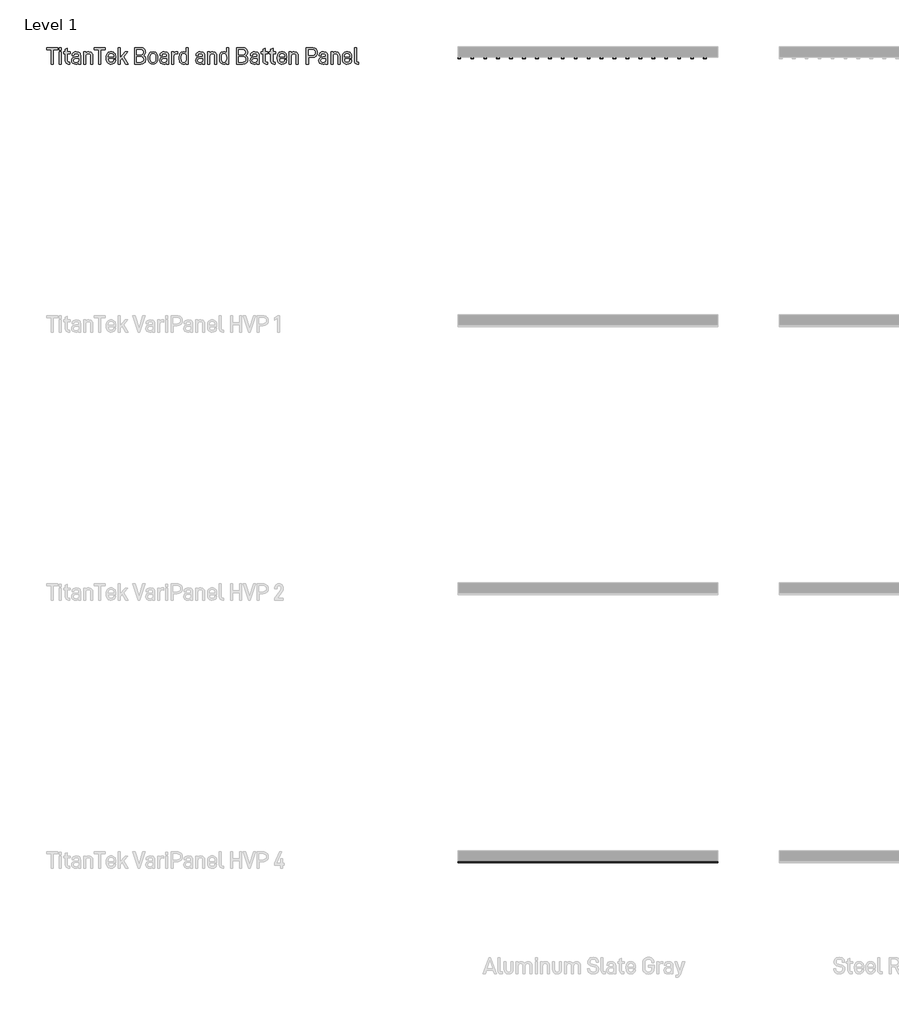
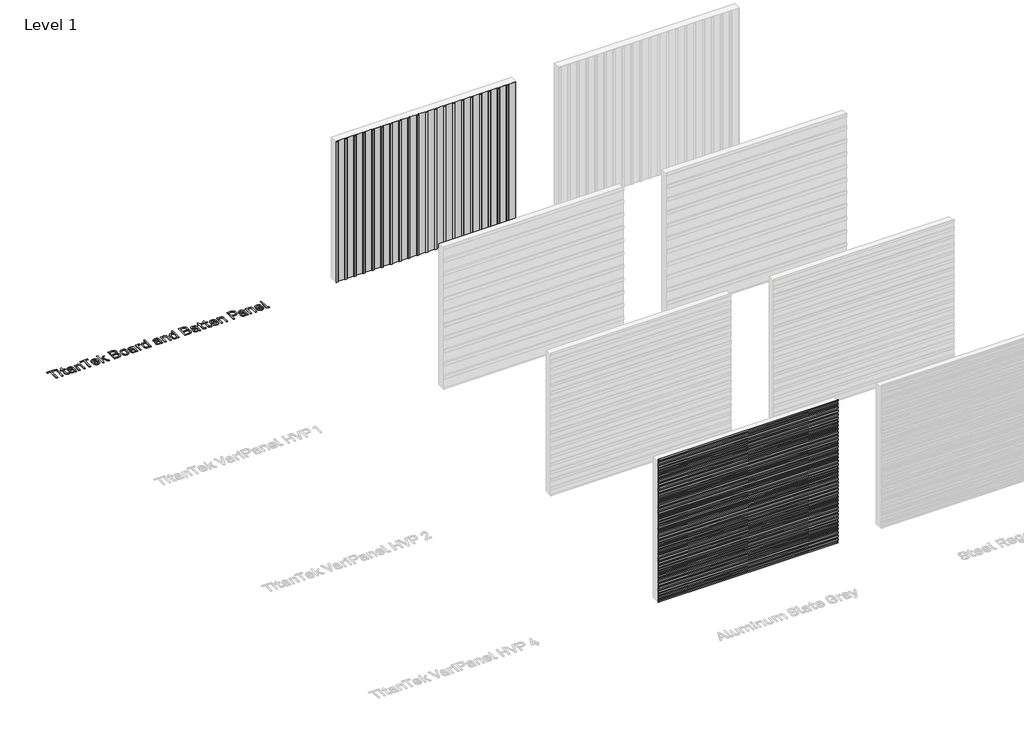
# One storey, part 5 of 33: 3 proxies.
"""IFC4 building model written with IfcOpenShell, lengths in millimetres."""

from ifc_helpers import new_model, si_unit, frame, origin, origin_with_axes, place, context, project, spatial, polyline, outline, extrude, transform, mapped, element, save
from components import titantek_board_and_batten_panel_aluminum_slate_gray_d83a0c41

model = new_model("IFC4")

# Units and contexts
model_context = context("Model", 3, world=origin())
ifc_project = project(units=[si_unit("LENGTHUNIT", "METRE", prefix="MILLI")], contexts=[model_context])

# Site, building, storey
site = spatial("IfcSite", under=ifc_project)
building = spatial("IfcBuilding", under=site)
storey = spatial("IfcBuildingStorey", under=building, Name="Level 1", Elevation=0.0)

# Proxies
placement = place(None, origin())
element("IfcBuildingElementProxy", 1, Name="600mm Arial 2", ObjectType="600mm Arial 2", at=placement, inside=storey, context=model_context, shape_type="SweptSolid", body=[
    extrude(outline(polyline([(-9914.9924556, -2779.5871657), (-9914.9924556, -3047.0126498), (-9954.4439015, -3047.0126498), (-9954.4439015, -2779.5871657), (-10038.8787304, -2779.5871657), (-10038.8787304, -2742.6833224), (-9830.5576267, -2742.6833224), (-9830.5576267, -2779.5871657), (-9914.9924556, -2779.5871657)])), origin_with_axes(), (0.0, 0.0, 1.0), 5.0),
    extrude(outline(polyline([(-9763.1553408, -2746.9778525), (-9763.1553408, -2794.1448949), (-9802.6067867, -2794.1448949), (-9802.6067867, -2746.9778525), (-9763.1553408, -2746.9778525)])), origin_with_axes(), (0.0, 0.0, 1.0), 5.0),
    extrude(outline(polyline([(-9764.0288046, -2821.1494824), (-9764.0288046, -3047.0126498), (-9801.733323, -3047.0126498), (-9801.733323, -2821.1494824), (-9764.0288046, -2821.1494824)])), origin_with_axes(), (0.0, 0.0, 1.0), 5.0),
    extrude(outline(polyline([(-9648.294858, -2987.398749), (-9646.8208879, -2998.4808203), (-9642.3989777, -3006.3965855), (-9635.0291273, -3011.1460446), (-9624.7113368, -3012.7291977), (-9603.2386864, -3012.7291977), (-9603.2386864, -3047.0126498), (-9629.3698101, -3047.0126498), (-9653.1535001, -3043.0456686), (-9671.3688587, -3031.144725), (-9682.6692959, -3012.6018175), (-9686.4361083, -2988.7089446), (-9686.4361083, -2852.8853319), (-9720.2828285, -2852.8853319), (-9720.2828285, -2821.1494824), (-9686.4361083, -2821.1494824), (-9686.4361083, -2773.1089763), (-9648.294858, -2755.1301808), (-9648.294858, -2821.1494824), (-9599.3808881, -2821.1494824), (-9599.3808881, -2852.8853319), (-9648.294858, -2852.8853319), (-9648.294858, -2987.398749)])), origin_with_axes(), (0.0, 0.0, 1.0), 5.0),
    extrude(outline(polyline([(-9422.8684225, -2837.8908709), (-9413.2830677, -2848.6590411), (-9406.4363858, -2861.7473495), (-9400.9590402, -2894.8843804), (-9400.9590402, -3047.0126498), (-9438.2996154, -3047.0126498), (-9438.2996154, -3030.7079931), (-9456.7151427, -3043.1548515), (-9473.7476858, -3047.9589022), (-9493.9829293, -3049.5602524), (-9526.0281305, -3045.2839194), (-9550.1029751, -3032.4549206), (-9565.2248162, -3010.6729184), (-9570.2654299, -2981.4300801), (-9565.1338304, -2953.7885919), (-9549.7390318, -2932.5888988), (-9525.063681, -2919.3777597), (-9493.1094655, -2914.9740466), (-9438.7363472, -2914.9740466), (-9438.7363472, -2894.4476485), (-9441.6296959, -2875.558995), (-9450.3097419, -2861.8383353), (-9464.2305704, -2853.8133871), (-9483.7197302, -2851.1384044), (-9502.2262434, -2853.3948524), (-9515.819523, -2860.1641964), (-9524.1720201, -2870.5183813), (-9526.9561857, -2884.5483927), (-9526.9561857, -2890.1531184), (-9563.8600291, -2890.1531184), (-9563.8600291, -2883.7477176), (-9558.4008807, -2856.7067358), (-9542.0234354, -2835.7072115), (-9516.8203668, -2822.5506638), (-9484.1564621, -2818.1651479), (-9448.6719974, -2823.0965787), (-9434.5600987, -2829.2608671), (-9422.8684225, -2837.8908709)]), holes=[polyline([(-9450.6736851, -3005.4503331), (-9441.7206817, -2990.5468579), (-9438.7363472, -2968.9832216), (-9438.7363472, -2945.0357572), (-9488.8149354, -2945.0357572), (-9507.9538, -2947.2831067), (-9521.6244175, -2954.025155), (-9529.826788, -2965.2619021), (-9532.5609115, -2980.9933482), (-9529.8540837, -2996.9477094), (-9521.7336004, -3008.3436818), (-9508.1994616, -3015.1812652), (-9489.2516673, -3017.4604596), (-9466.104878, -3014.457928), (-9450.6736851, -3005.4503331)])]), origin_with_axes(), (0.0, 0.0, 1.0), 5.0),
    extrude(outline(polyline([(-9306.6977441, -2821.1494824), (-9306.6977441, -2839.5650097), (-9288.2822167, -2826.3174762), (-9271.1222935, -2820.5307789), (-9252.2518372, -2818.6018798), (-9219.9154813, -2824.0610282), (-9206.7907787, -2830.8849637), (-9195.6950595, -2840.4384735), (-9187.0650557, -2852.0209667), (-9180.9007673, -2865.8053165), (-9175.9693365, -2899.9795856), (-9175.9693365, -3047.0126498), (-9213.673855, -3047.0126498), (-9213.673855, -2904.2741157), (-9216.6763866, -2881.8916072), (-9225.6839815, -2866.1328654), (-9240.3781893, -2856.5247642), (-9259.567096, -2853.3220637), (-9278.7378056, -2856.5247642), (-9293.3774219, -2866.1328654), (-9303.0401146, -2882.546705), (-9306.2610122, -2904.2741157), (-9306.2610122, -3047.0126498), (-9343.9655306, -3047.0126498), (-9343.9655306, -2821.1494824), (-9306.6977441, -2821.1494824)])), origin_with_axes(), (0.0, 0.0, 1.0), 5.0),
    extrude(outline(polyline([(-9025.2240514, -2779.5871657), (-9025.2240514, -3047.0126498), (-9064.6754974, -3047.0126498), (-9064.6754974, -2779.5871657), (-9149.1103263, -2779.5871657), (-9149.1103263, -2742.6833224), (-8940.7892225, -2742.6833224), (-8940.7892225, -2779.5871657), (-9025.2240514, -2779.5871657)])), origin_with_axes(), (0.0, 0.0, 1.0), 5.0),
    extrude(outline(polyline([(-8884.5235994, -2952.7513537), (-8881.1025331, -2982.1670651), (-8870.8393341, -3001.1194087), (-8854.3527058, -3011.4099035), (-8832.2613519, -3014.8400684), (-8812.990558, -3012.2742686), (-8798.8513635, -3004.5768694), (-8790.1713175, -2992.8033059), (-8787.2779689, -2977.13555), (-8787.2779689, -2971.6036129), (-8750.3741256, -2971.6036129), (-8750.3741256, -2978.0090137), (-8756.0516399, -3007.1608663), (-8763.1485329, -3019.471246), (-8773.084183, -3030.2712613), (-8799.7976159, -3044.7380046), (-8834.3722226, -3049.5602524), (-8853.3222916, -3048.0612612), (-8870.2843206, -3043.5642877), (-8885.2583098, -3036.0693318), (-8898.2442591, -3025.5763936), (-8908.7371973, -3011.9762901), (-8916.2321532, -2995.1598383), (-8920.7291267, -2975.1270383), (-8922.2281179, -2951.8778899), (-8922.2281179, -2914.1733715), (-8920.7314014, -2891.4678633), (-8916.2412518, -2871.8285769), (-8908.7576691, -2855.2555121), (-8898.2806535, -2841.7486691), (-8885.4971476, -2831.4308786), (-8870.7301511, -2824.0610282), (-8853.979664, -2819.639118), (-8835.2456864, -2818.1651479), (-8816.8438069, -2819.639118), (-8800.2161506, -2824.0610282), (-8785.3627176, -2831.4308786), (-8772.2835079, -2841.7486691), (-8761.9657174, -2855.0917377), (-8754.595867, -2871.610211), (-8750.1739568, -2891.3040889), (-8748.6999867, -2914.1733715), (-8748.6999867, -2944.1622935), (-8884.5235994, -2944.1622935), (-8884.5235994, -2952.7513537)]), holes=[polyline([(-8871.2760659, -2866.5695973), (-8881.2117161, -2884.69397), (-8884.5235994, -2913.2999077), (-8786.4045051, -2913.7366396), (-8786.4045051, -2910.3155733), (-8789.6254027, -2883.0744226), (-8799.2880954, -2865.6961335), (-8814.9012599, -2856.4155812), (-8835.2456864, -2853.3220637), (-8855.60831, -2856.6339471), (-8871.2760659, -2866.5695973)])]), origin_with_axes(), (0.0, 0.0, 1.0), 5.0),
    extrude(outline(polyline([(-8663.391694, -2979.6831526), (-8663.391694, -3047.0126498), (-8701.0962125, -3047.0126498), (-8701.0962125, -2742.6833224), (-8663.391694, -2742.6833224), (-8663.391694, -2929.1678325), (-8575.0990669, -2821.1494824), (-8528.3687564, -2821.1494824), (-8602.5403863, -2908.1319139), (-8517.6688255, -3047.0126498), (-8563.5256722, -3047.0126498), (-8627.7980463, -2937.3201608), (-8663.391694, -2979.6831526)])), origin_with_axes(), (0.0, 0.0, 1.0), 5.0),
    extrude(outline(polyline([(-8200.3103305, -2914.1733715), (-8190.3200889, -2935.882585), (-8186.9900084, -2961.7043571), (-8188.5708868, -2980.5748135), (-8193.313522, -2997.2980048), (-8201.217914, -3011.8739311), (-8212.2840627, -3024.3025923), (-8226.0570393, -3034.2382425), (-8242.0819146, -3041.3351354), (-8280.8873613, -3047.0126498), (-8396.1845759, -3047.0126498), (-8396.1845759, -2742.6833224), (-8283.4349639, -2742.6833224), (-8245.002559, -2748.051485), (-8229.3893945, -2754.7616883), (-8216.1782553, -2764.1559729), (-8205.4783244, -2776.1479022), (-8197.8355166, -2790.2870966), (-8193.2498319, -2806.5735561), (-8191.7212704, -2825.0072806), (-8194.9421679, -2847.8447182), (-8204.6048606, -2868.3165247), (-8216.0508752, -2881.3820866), (-8229.8625207, -2890.5898503), (-8213.0483435, -2900.7802607), (-8200.3103305, -2914.1733715)]), holes=[polyline([(-8356.2963981, -2873.4117299), (-8286.8560302, -2873.4117299), (-8263.5090721, -2870.5183813), (-8245.7304454, -2861.8383353), (-8235.1396975, -2847.262409), (-8231.6094482, -2826.6814194), (-8235.0305145, -2806.22781), (-8245.2937135, -2791.1605604), (-8262.4718339, -2782.1529655), (-8286.492087, -2779.1504339), (-8356.2963981, -2779.1504339), (-8356.2963981, -2873.4117299)]), polyline([(-8241.8726472, -2997.2980048), (-8230.6268014, -2981.648446), (-8226.8781862, -2959.5934864), (-8230.5176185, -2937.9206671), (-8241.4359153, -2922.689643), (-8259.432908, -2913.0815418), (-8284.3084276, -2909.8788414), (-8356.2963981, -2909.8788414), (-8356.2963981, -3010.5455383), (-8284.7451595, -3010.5455383), (-8259.8696398, -3007.2336549), (-8241.8726472, -2997.2980048)])]), origin_with_axes(), (0.0, 0.0, 1.0), 5.0),
    extrude(outline(polyline([(-8115.6571357, -3027.2869268), (-8126.1341514, -3014.3259986), (-8133.617734, -2998.1532714), (-8138.1078836, -2978.7687452), (-8139.6046001, -2956.17242), (-8139.6046001, -2911.5529802), (-8138.1056089, -2889.1477253), (-8133.6086354, -2869.8996778), (-8126.1136796, -2853.8088378), (-8115.6207414, -2840.8752053), (-8102.634792, -2830.9395552), (-8087.6608029, -2823.8426623), (-8051.7487048, -2818.1651479), (-8016.8647464, -2823.8426623), (-8002.1386935, -2830.9395552), (-7989.2232582, -2840.8752053), (-7978.7143975, -2853.6450634), (-7971.2080684, -2869.6813119), (-7966.704271, -2888.9839508), (-7965.2030052, -2911.5529802), (-7965.2030052, -2956.17242), (-7966.704271, -2978.7414495), (-7971.2080684, -2998.0440884), (-7978.7143975, -3014.0803369), (-7989.2232582, -3026.8501949), (-8002.1386935, -3036.7858451), (-8016.8647464, -3043.882738), (-8051.7487048, -3049.5602524), (-8087.8882674, -3043.991921), (-8102.8190383, -3037.0315067), (-8115.6571357, -3027.2869268)]), holes=[polyline([(-8016.2278458, -3001.5925349), (-8006.2376041, -2983.3589792), (-8002.9075236, -2954.4254925), (-8002.9075236, -2913.2999077), (-8006.2376041, -2884.69397), (-8016.2278458, -2866.5695973), (-8031.5134613, -2856.6339471), (-8051.7487048, -2853.3220637), (-8072.7664262, -2856.6339471), (-8088.6525482, -2866.5695973), (-8098.5881983, -2884.69397), (-8101.9000817, -2913.2999077), (-8101.9000817, -2954.4254925), (-8098.5881983, -2983.3589792), (-8088.6525482, -3001.5925349), (-8072.7664262, -3011.528185), (-8051.7487048, -3014.8400684), (-8031.5134613, -3011.528185), (-8016.2278458, -3001.5925349)])]), origin_with_axes(), (0.0, 0.0, 1.0), 5.0),
    extrude(outline(polyline([(-7778.4273405, -2837.8908709), (-7768.8419857, -2848.6590411), (-7761.9953037, -2861.7473495), (-7756.5179582, -2894.8843804), (-7756.5179582, -3047.0126498), (-7793.8585334, -3047.0126498), (-7793.8585334, -3030.7079931), (-7812.2740607, -3043.1548515), (-7829.3066038, -3047.9589022), (-7849.5418473, -3049.5602524), (-7881.5870485, -3045.2839194), (-7905.661893, -3032.4549206), (-7920.7837342, -3010.6729184), (-7925.8243479, -2981.4300801), (-7920.6927484, -2953.7885919), (-7905.2979498, -2932.5888988), (-7880.6225989, -2919.3777597), (-7848.6683835, -2914.9740466), (-7794.2952652, -2914.9740466), (-7794.2952652, -2894.4476485), (-7797.1886139, -2875.558995), (-7805.8686599, -2861.8383353), (-7819.7894884, -2853.8133871), (-7839.2786482, -2851.1384044), (-7857.7851614, -2853.3948524), (-7871.378441, -2860.1641964), (-7879.730938, -2870.5183813), (-7882.5151037, -2884.5483927), (-7882.5151037, -2890.1531184), (-7919.4189471, -2890.1531184), (-7919.4189471, -2883.7477176), (-7913.9597986, -2856.7067358), (-7897.5823534, -2835.7072115), (-7872.3792848, -2822.5506638), (-7839.7153801, -2818.1651479), (-7804.2309154, -2823.0965787), (-7790.1190167, -2829.2608671), (-7778.4273405, -2837.8908709)]), holes=[polyline([(-7806.2326031, -3005.4503331), (-7797.2795997, -2990.5468579), (-7794.2952652, -2968.9832216), (-7794.2952652, -2945.0357572), (-7844.3738534, -2945.0357572), (-7863.5127179, -2947.2831067), (-7877.1833354, -2954.025155), (-7885.3857059, -2965.2619021), (-7888.1198294, -2980.9933482), (-7885.4130017, -2996.9477094), (-7877.2925184, -3008.3436818), (-7863.7583796, -3015.1812652), (-7844.8105853, -3017.4604596), (-7821.663796, -3014.457928), (-7806.2326031, -3005.4503331)])]), origin_with_axes(), (0.0, 0.0, 1.0), 5.0),
    extrude(outline(polyline([(-7609.5576826, -2818.1651479), (-7589.3952278, -2820.2760186), (-7589.3952278, -2859.2907327), (-7615.9630834, -2853.686007), (-7634.2967236, -2857.2253549), (-7648.9727342, -2867.8433985), (-7658.6081312, -2884.2481396), (-7661.8199302, -2905.1475794), (-7661.8199302, -3047.0126498), (-7699.5244486, -3047.0126498), (-7699.5244486, -2821.1494824), (-7662.2566621, -2821.1494824), (-7662.2566621, -2840.8752053), (-7644.7145985, -2826.6814194), (-7628.6101106, -2820.2942158), (-7609.5576826, -2818.1651479)])), origin_with_axes(), (0.0, 0.0, 1.0), 5.0),
    extrude(outline(polyline([(-7429.9880939, -2742.6833224), (-7391.8468436, -2742.6833224), (-7391.8468436, -3047.0126498), (-7429.9880939, -3047.0126498), (-7429.9880939, -3027.7236587), (-7447.1662142, -3040.9711922), (-7463.7620254, -3047.4129873), (-7484.4340008, -3049.5602524), (-7515.2781894, -3043.773555), (-7528.448385, -3036.5401834), (-7540.1173147, -3026.413463), (-7549.6708244, -3013.6709008), (-7556.49476, -2997.7165395), (-7561.9539084, -2956.17242), (-7561.9539084, -2911.5529802), (-7556.49476, -2870.0088608), (-7549.6708244, -2854.0544995), (-7540.1173147, -2841.3119372), (-7528.4210892, -2831.1852169), (-7515.1690064, -2823.9518452), (-7483.9972689, -2818.1651479), (-7467.9291754, -2819.639118), (-7453.5716151, -2824.0610282), (-7440.9245879, -2831.4308786), (-7429.9880939, -2841.7486691), (-7429.9880939, -2742.6833224)]), holes=[polyline([(-7442.8716841, -2998.6082004), (-7433.2089914, -2979.0826462), (-7429.9880939, -2953.9887606), (-7429.9880939, -2915.8475103), (-7433.0998085, -2889.9347525), (-7442.4349523, -2869.5539317), (-7457.6113849, -2857.3800307), (-7478.3925432, -2853.3220637), (-7498.2638435, -2857.070679), (-7512.4576294, -2868.3165247), (-7520.9739009, -2887.059601), (-7523.8126581, -2913.2999077), (-7523.8126581, -2954.4254925), (-7521.0830839, -2980.8568695), (-7512.8943612, -2999.7364244), (-7499.2464902, -3011.0641574), (-7480.1394707, -3014.8400684), (-7458.3756657, -3010.7821014), (-7442.8716841, -2998.6082004)])]), origin_with_axes(), (0.0, 0.0, 1.0), 5.0),
    extrude(outline(polyline([(-7107.6071824, -2837.8908709), (-7098.0218276, -2848.6590411), (-7091.1751456, -2861.7473495), (-7085.6978001, -2894.8843804), (-7085.6978001, -3047.0126498), (-7123.0383753, -3047.0126498), (-7123.0383753, -3030.7079931), (-7141.4539026, -3043.1548515), (-7158.4864457, -3047.9589022), (-7178.7216892, -3049.5602524), (-7210.7668904, -3045.2839194), (-7234.8417349, -3032.4549206), (-7249.9635761, -3010.6729184), (-7255.0041898, -2981.4300801), (-7249.8725903, -2953.7885919), (-7234.4777917, -2932.5888988), (-7209.8024408, -2919.3777597), (-7177.8482254, -2914.9740466), (-7123.4751071, -2914.9740466), (-7123.4751071, -2894.4476485), (-7126.3684558, -2875.558995), (-7135.0485018, -2861.8383353), (-7148.9693303, -2853.8133871), (-7168.4584901, -2851.1384044), (-7186.9650033, -2853.3948524), (-7200.5582829, -2860.1641964), (-7208.9107799, -2870.5183813), (-7211.6949456, -2884.5483927), (-7211.6949456, -2890.1531184), (-7248.598789, -2890.1531184), (-7248.598789, -2883.7477176), (-7243.1396405, -2856.7067358), (-7226.7621953, -2835.7072115), (-7201.5591267, -2822.5506638), (-7168.895222, -2818.1651479), (-7133.4107573, -2823.0965787), (-7119.2988586, -2829.2608671), (-7107.6071824, -2837.8908709)]), holes=[polyline([(-7135.412445, -3005.4503331), (-7126.4594416, -2990.5468579), (-7123.4751071, -2968.9832216), (-7123.4751071, -2945.0357572), (-7173.5536953, -2945.0357572), (-7192.6925598, -2947.2831067), (-7206.3631773, -2954.025155), (-7214.5655478, -2965.2619021), (-7217.2996713, -2980.9933482), (-7214.5928436, -2996.9477094), (-7206.4723603, -3008.3436818), (-7192.9382215, -3015.1812652), (-7173.9904272, -3017.4604596), (-7150.8436379, -3014.457928), (-7135.412445, -3005.4503331)])]), origin_with_axes(), (0.0, 0.0, 1.0), 5.0),
    extrude(outline(polyline([(-6991.436504, -2821.1494824), (-6991.436504, -2839.5650097), (-6973.0209766, -2826.3174762), (-6955.8610534, -2820.5307789), (-6936.990597, -2818.6018798), (-6904.6542412, -2824.0610282), (-6891.5295385, -2830.8849637), (-6880.4338194, -2840.4384735), (-6871.8038156, -2852.0209667), (-6865.6395272, -2865.8053165), (-6860.7080964, -2899.9795856), (-6860.7080964, -3047.0126498), (-6898.4126149, -3047.0126498), (-6898.4126149, -2904.2741157), (-6901.4151465, -2881.8916072), (-6910.4227414, -2866.1328654), (-6925.1169492, -2856.5247642), (-6944.3058559, -2853.3220637), (-6963.4765655, -2856.5247642), (-6978.1161818, -2866.1328654), (-6987.7788745, -2882.546705), (-6990.9997721, -2904.2741157), (-6990.9997721, -3047.0126498), (-7028.7042905, -3047.0126498), (-7028.7042905, -2821.1494824), (-6991.436504, -2821.1494824)])), origin_with_axes(), (0.0, 0.0, 1.0), 5.0),
    extrude(outline(polyline([(-6679.9738893, -2742.6833224), (-6641.832639, -2742.6833224), (-6641.832639, -3047.0126498), (-6679.9738893, -3047.0126498), (-6679.9738893, -3027.7236587), (-6697.1520097, -3040.9711922), (-6713.7478209, -3047.4129873), (-6734.4197963, -3049.5602524), (-6765.2639848, -3043.773555), (-6778.4341804, -3036.5401834), (-6790.1031102, -3026.413463), (-6799.6566199, -3013.6709008), (-6806.4805554, -2997.7165395), (-6811.9397038, -2956.17242), (-6811.9397038, -2911.5529802), (-6806.4805554, -2870.0088608), (-6799.6566199, -2854.0544995), (-6790.1031102, -2841.3119372), (-6778.4068847, -2831.1852169), (-6765.1548019, -2823.9518452), (-6733.9830644, -2818.1651479), (-6717.9149709, -2819.639118), (-6703.5574105, -2824.0610282), (-6690.9103833, -2831.4308786), (-6679.9738893, -2841.7486691), (-6679.9738893, -2742.6833224)]), holes=[polyline([(-6692.8574796, -2998.6082004), (-6683.1947869, -2979.0826462), (-6679.9738893, -2953.9887606), (-6679.9738893, -2915.8475103), (-6683.0856039, -2889.9347525), (-6692.4207477, -2869.5539317), (-6707.5971803, -2857.3800307), (-6728.3783387, -2853.3220637), (-6748.2496389, -2857.070679), (-6762.4434248, -2868.3165247), (-6770.9596964, -2887.059601), (-6773.7984535, -2913.2999077), (-6773.7984535, -2954.4254925), (-6771.0688793, -2980.8568695), (-6762.8801567, -2999.7364244), (-6749.2322856, -3011.0641574), (-6730.1252662, -3014.8400684), (-6708.3614611, -3010.7821014), (-6692.8574796, -2998.6082004)])]), origin_with_axes(), (0.0, 0.0, 1.0), 5.0),
    extrude(outline(polyline([(-6294.9947426, -2914.1733715), (-6285.004501, -2935.882585), (-6281.6744204, -2961.7043571), (-6283.2552988, -2980.5748135), (-6287.997934, -2997.2980048), (-6295.902326, -3011.8739311), (-6306.9684748, -3024.3025923), (-6320.7414513, -3034.2382425), (-6336.7663266, -3041.3351354), (-6375.5717733, -3047.0126498), (-6490.868988, -3047.0126498), (-6490.868988, -2742.6833224), (-6378.1193759, -2742.6833224), (-6339.686971, -2748.051485), (-6324.0738065, -2754.7616883), (-6310.8626673, -2764.1559729), (-6300.1627364, -2776.1479022), (-6292.5199286, -2790.2870966), (-6287.934244, -2806.5735561), (-6286.4056824, -2825.0072806), (-6289.62658, -2847.8447182), (-6299.2892727, -2868.3165247), (-6310.7352872, -2881.3820866), (-6324.5469327, -2890.5898503), (-6307.7327556, -2900.7802607), (-6294.9947426, -2914.1733715)]), holes=[polyline([(-6450.9808102, -2873.4117299), (-6381.5404423, -2873.4117299), (-6358.1934842, -2870.5183813), (-6340.4148575, -2861.8383353), (-6329.8241095, -2847.262409), (-6326.2938602, -2826.6814194), (-6329.7149266, -2806.22781), (-6339.9781256, -2791.1605604), (-6357.156246, -2782.1529655), (-6381.176499, -2779.1504339), (-6450.9808102, -2779.1504339), (-6450.9808102, -2873.4117299)]), polyline([(-6336.5570593, -2997.2980048), (-6325.3112135, -2981.648446), (-6321.5625983, -2959.5934864), (-6325.2020305, -2937.9206671), (-6336.1203274, -2922.689643), (-6354.11732, -2913.0815418), (-6378.9928397, -2909.8788414), (-6450.9808102, -2909.8788414), (-6450.9808102, -3010.5455383), (-6379.4295715, -3010.5455383), (-6354.5540519, -3007.2336549), (-6336.5570593, -2997.2980048)])]), origin_with_axes(), (0.0, 0.0, 1.0), 5.0),
    extrude(outline(polyline([(-6092.0599986, -2837.8908709), (-6082.4746438, -2848.6590411), (-6075.6279618, -2861.7473495), (-6070.1506163, -2894.8843804), (-6070.1506163, -3047.0126498), (-6107.4911915, -3047.0126498), (-6107.4911915, -3030.7079931), (-6125.9067188, -3043.1548515), (-6142.9392619, -3047.9589022), (-6163.1745054, -3049.5602524), (-6195.2197066, -3045.2839194), (-6219.2945511, -3032.4549206), (-6234.4163923, -3010.6729184), (-6239.457006, -2981.4300801), (-6234.3254065, -2953.7885919), (-6218.9306079, -2932.5888988), (-6194.2552571, -2919.3777597), (-6162.3010416, -2914.9740466), (-6107.9279233, -2914.9740466), (-6107.9279233, -2894.4476485), (-6110.821272, -2875.558995), (-6119.501318, -2861.8383353), (-6133.4221465, -2853.8133871), (-6152.9113063, -2851.1384044), (-6171.4178195, -2853.3948524), (-6185.0110991, -2860.1641964), (-6193.3635961, -2870.5183813), (-6196.1477618, -2884.5483927), (-6196.1477618, -2890.1531184), (-6233.0516052, -2890.1531184), (-6233.0516052, -2883.7477176), (-6227.5924567, -2856.7067358), (-6211.2150115, -2835.7072115), (-6186.0119429, -2822.5506638), (-6153.3480382, -2818.1651479), (-6117.8635735, -2823.0965787), (-6103.7516748, -2829.2608671), (-6092.0599986, -2837.8908709)]), holes=[polyline([(-6119.8652612, -3005.4503331), (-6110.9122578, -2990.5468579), (-6107.9279233, -2968.9832216), (-6107.9279233, -2945.0357572), (-6158.0065115, -2945.0357572), (-6177.145376, -2947.2831067), (-6190.8159935, -2954.025155), (-6199.018364, -2965.2619021), (-6201.7524876, -2980.9933482), (-6199.0456598, -2996.9477094), (-6190.9251765, -3008.3436818), (-6177.3910377, -3015.1812652), (-6158.4432434, -3017.4604596), (-6135.2964541, -3014.457928), (-6119.8652612, -3005.4503331)])]), origin_with_axes(), (0.0, 0.0, 1.0), 5.0),
    extrude(outline(polyline([(-5958.7839884, -2987.398749), (-5957.3100184, -2998.4808203), (-5952.8881081, -3006.3965855), (-5945.5182578, -3011.1460446), (-5935.2004673, -3012.7291977), (-5913.7278168, -3012.7291977), (-5913.7278168, -3047.0126498), (-5939.8589406, -3047.0126498), (-5963.6426305, -3043.0456686), (-5981.8579891, -3031.144725), (-5993.1584263, -3012.6018175), (-5996.9252388, -2988.7089446), (-5996.9252388, -2852.8853319), (-6030.771959, -2852.8853319), (-6030.771959, -2821.1494824), (-5996.9252388, -2821.1494824), (-5996.9252388, -2773.1089763), (-5958.7839884, -2755.1301808), (-5958.7839884, -2821.1494824), (-5909.8700186, -2821.1494824), (-5909.8700186, -2852.8853319), (-5958.7839884, -2852.8853319), (-5958.7839884, -2987.398749)])), origin_with_axes(), (0.0, 0.0, 1.0), 5.0),
    extrude(outline(polyline([(-5814.3713155, -2987.398749), (-5812.8973454, -2998.4808203), (-5808.4754352, -3006.3965855), (-5801.1055849, -3011.1460446), (-5790.7877943, -3012.7291977), (-5769.3151439, -3012.7291977), (-5769.3151439, -3047.0126498), (-5795.4462677, -3047.0126498), (-5819.2299576, -3043.0456686), (-5837.4453162, -3031.144725), (-5848.7457534, -3012.6018175), (-5852.5125658, -2988.7089446), (-5852.5125658, -2852.8853319), (-5886.359286, -2852.8853319), (-5886.359286, -2821.1494824), (-5852.5125658, -2821.1494824), (-5852.5125658, -2773.1089763), (-5814.3713155, -2755.1301808), (-5814.3713155, -2821.1494824), (-5765.4573457, -2821.1494824), (-5765.4573457, -2852.8853319), (-5814.3713155, -2852.8853319), (-5814.3713155, -2987.398749)])), origin_with_axes(), (0.0, 0.0, 1.0), 5.0),
    extrude(outline(polyline([(-5693.4693751, -2952.7513537), (-5690.0483088, -2982.1670651), (-5679.7851098, -3001.1194087), (-5663.2984815, -3011.4099035), (-5641.2071276, -3014.8400684), (-5621.9363336, -3012.2742686), (-5607.7971392, -3004.5768694), (-5599.1170932, -2992.8033059), (-5596.2237446, -2977.13555), (-5596.2237446, -2971.6036129), (-5559.3199012, -2971.6036129), (-5559.3199012, -2978.0090137), (-5564.9974156, -3007.1608663), (-5572.0943085, -3019.471246), (-5582.0299587, -3030.2712613), (-5608.7433916, -3044.7380046), (-5643.3179983, -3049.5602524), (-5662.2680673, -3048.0612612), (-5679.2300963, -3043.5642877), (-5694.2040855, -3036.0693318), (-5707.1900348, -3025.5763936), (-5717.682973, -3011.9762901), (-5725.1779289, -2995.1598383), (-5729.6749024, -2975.1270383), (-5731.1738936, -2951.8778899), (-5731.1738936, -2914.1733715), (-5729.677177, -2891.4678633), (-5725.1870275, -2871.8285769), (-5717.7034448, -2855.2555121), (-5707.2264292, -2841.7486691), (-5694.4429233, -2831.4308786), (-5679.6759268, -2824.0610282), (-5662.9254397, -2819.639118), (-5644.191462, -2818.1651479), (-5625.7895826, -2819.639118), (-5609.1619263, -2824.0610282), (-5594.3084933, -2831.4308786), (-5581.2292836, -2841.7486691), (-5570.9114931, -2855.0917377), (-5563.5416427, -2871.610211), (-5559.1197325, -2891.3040889), (-5557.6457624, -2914.1733715), (-5557.6457624, -2944.1622935), (-5693.4693751, -2944.1622935), (-5693.4693751, -2952.7513537)]), holes=[polyline([(-5680.2218416, -2866.5695973), (-5690.1574918, -2884.69397), (-5693.4693751, -2913.2999077), (-5595.3502808, -2913.7366396), (-5595.3502808, -2910.3155733), (-5598.5711784, -2883.0744226), (-5608.2338711, -2865.6961335), (-5623.8470356, -2856.4155812), (-5644.191462, -2853.3220637), (-5664.5540857, -2856.6339471), (-5680.2218416, -2866.5695973)])]), origin_with_axes(), (0.0, 0.0, 1.0), 5.0),
    extrude(outline(polyline([(-5472.7742016, -2821.1494824), (-5472.7742016, -2839.5650097), (-5454.3586742, -2826.3174762), (-5437.198751, -2820.5307789), (-5418.3282947, -2818.6018798), (-5385.9919388, -2824.0610282), (-5372.8672362, -2830.8849637), (-5361.771517, -2840.4384735), (-5353.1415132, -2852.0209667), (-5346.9772248, -2865.8053165), (-5342.045794, -2899.9795856), (-5342.045794, -3047.0126498), (-5379.7503125, -3047.0126498), (-5379.7503125, -2904.2741157), (-5382.7528441, -2881.8916072), (-5391.760439, -2866.1328654), (-5406.4546468, -2856.5247642), (-5425.6435535, -2853.3220637), (-5444.8142631, -2856.5247642), (-5459.4538794, -2866.1328654), (-5469.1165721, -2882.546705), (-5472.3374697, -2904.2741157), (-5472.3374697, -3047.0126498), (-5510.0419882, -3047.0126498), (-5510.0419882, -2821.1494824), (-5472.7742016, -2821.1494824)])), origin_with_axes(), (0.0, 0.0, 1.0), 5.0),
    extrude(outline(polyline([(-5009.4016835, -2766.7035755), (-4997.9693169, -2780.1603763), (-4989.8033407, -2796.073794), (-4984.903755, -2814.4438284), (-4983.2705597, -2835.2704796), (-4984.9310507, -2854.955259), (-4989.9125237, -2872.4472804), (-4998.2149786, -2887.7465438), (-5009.8384154, -2900.8530493), (-5023.8957226, -2911.3619101), (-5040.3732522, -2918.8682391), (-5059.2710044, -2923.3720366), (-5080.588979, -2924.8733024), (-5151.2667539, -2924.8733024), (-5151.2667539, -3047.0126498), (-5191.1549317, -3047.0126498), (-5191.1549317, -2742.6833224), (-5080.588979, -2742.6833224), (-5059.4074831, -2744.1845882), (-5040.4824352, -2748.6883857), (-5023.8138354, -2756.1947147), (-5009.4016835, -2766.7035755)]), holes=[polyline([(-5038.1531985, -2874.7219256), (-5026.9073528, -2858.4172689), (-5023.1587376, -2835.2704796), (-5027.0165358, -2810.6497202), (-5038.5899304, -2793.2714311), (-5057.6605556, -2783.0082321), (-5083.1365815, -2779.5871657), (-5151.2667539, -2779.5871657), (-5151.2667539, -2887.9694591), (-5083.1365815, -2887.9694591), (-5056.8962748, -2884.6575757), (-5038.1531985, -2874.7219256)])]), origin_with_axes(), (0.0, 0.0, 1.0), 5.0),
    extrude(outline(polyline([(-4810.9798355, -2837.8908709), (-4801.3944808, -2848.6590411), (-4794.5477988, -2861.7473495), (-4789.0704532, -2894.8843804), (-4789.0704532, -3047.0126498), (-4826.4110284, -3047.0126498), (-4826.4110284, -3030.7079931), (-4844.8265558, -3043.1548515), (-4861.8590988, -3047.9589022), (-4882.0943423, -3049.5602524), (-4914.1395436, -3045.2839194), (-4938.2143881, -3032.4549206), (-4953.3362292, -3010.6729184), (-4958.3768429, -2981.4300801), (-4953.2452434, -2953.7885919), (-4937.8504449, -2932.5888988), (-4913.175094, -2919.3777597), (-4881.2208786, -2914.9740466), (-4826.8477603, -2914.9740466), (-4826.8477603, -2894.4476485), (-4829.741109, -2875.558995), (-4838.4211549, -2861.8383353), (-4852.3419834, -2853.8133871), (-4871.8311433, -2851.1384044), (-4890.3376564, -2853.3948524), (-4903.930936, -2860.1641964), (-4912.2834331, -2870.5183813), (-4915.0675988, -2884.5483927), (-4915.0675988, -2890.1531184), (-4951.9714421, -2890.1531184), (-4951.9714421, -2883.7477176), (-4946.5122937, -2856.7067358), (-4930.1348484, -2835.7072115), (-4904.9317799, -2822.5506638), (-4872.2678752, -2818.1651479), (-4836.7834104, -2823.0965787), (-4822.6715118, -2829.2608671), (-4810.9798355, -2837.8908709)]), holes=[polyline([(-4838.7850982, -3005.4503331), (-4829.8320948, -2990.5468579), (-4826.8477603, -2968.9832216), (-4826.8477603, -2945.0357572), (-4876.9263485, -2945.0357572), (-4896.065213, -2947.2831067), (-4909.7358305, -2954.025155), (-4917.938201, -2965.2619021), (-4920.6723245, -2980.9933482), (-4917.9654967, -2996.9477094), (-4909.8450135, -3008.3436818), (-4896.3108747, -3015.1812652), (-4877.3630804, -3017.4604596), (-4854.216291, -3014.457928), (-4838.7850982, -3005.4503331)])]), origin_with_axes(), (0.0, 0.0, 1.0), 5.0),
    extrude(outline(polyline([(-4694.8091571, -2821.1494824), (-4694.8091571, -2839.5650097), (-4676.3936298, -2826.3174762), (-4659.2337066, -2820.5307789), (-4640.3632502, -2818.6018798), (-4608.0268944, -2824.0610282), (-4594.9021917, -2830.8849637), (-4583.8064725, -2840.4384735), (-4575.1764687, -2852.0209667), (-4569.0121803, -2865.8053165), (-4564.0807496, -2899.9795856), (-4564.0807496, -3047.0126498), (-4601.785268, -3047.0126498), (-4601.785268, -2904.2741157), (-4604.7877996, -2881.8916072), (-4613.7953945, -2866.1328654), (-4628.4896024, -2856.5247642), (-4647.6785091, -2853.3220637), (-4666.8492186, -2856.5247642), (-4681.488835, -2866.1328654), (-4691.1515277, -2882.546705), (-4694.3724253, -2904.2741157), (-4694.3724253, -3047.0126498), (-4732.0769437, -3047.0126498), (-4732.0769437, -2821.1494824), (-4694.8091571, -2821.1494824)])), origin_with_axes(), (0.0, 0.0, 1.0), 5.0),
    extrude(outline(polyline([(-4477.6078386, -2952.7513537), (-4474.1867722, -2982.1670651), (-4463.9235732, -3001.1194087), (-4447.436945, -3011.4099035), (-4425.345591, -3014.8400684), (-4406.0747971, -3012.2742686), (-4391.9356027, -3004.5768694), (-4383.2555567, -2992.8033059), (-4380.362208, -2977.13555), (-4380.362208, -2971.6036129), (-4343.4583647, -2971.6036129), (-4343.4583647, -2978.0090137), (-4349.135879, -3007.1608663), (-4356.232772, -3019.471246), (-4366.1684221, -3030.2712613), (-4392.8818551, -3044.7380046), (-4427.4564617, -3049.5602524), (-4446.4065307, -3048.0612612), (-4463.3685598, -3043.5642877), (-4478.342549, -3036.0693318), (-4491.3284983, -3025.5763936), (-4501.8214365, -3011.9762901), (-4509.3163923, -2995.1598383), (-4513.8133658, -2975.1270383), (-4515.312357, -2951.8778899), (-4515.312357, -2914.1733715), (-4513.8156405, -2891.4678633), (-4509.3254909, -2871.8285769), (-4501.8419083, -2855.2555121), (-4491.3648926, -2841.7486691), (-4478.5813867, -2831.4308786), (-4463.8143902, -2824.0610282), (-4447.0639032, -2819.639118), (-4428.3299255, -2818.1651479), (-4409.928046, -2819.639118), (-4393.3003898, -2824.0610282), (-4378.4469568, -2831.4308786), (-4365.367747, -2841.7486691), (-4355.0499565, -2855.0917377), (-4347.6801061, -2871.610211), (-4343.2581959, -2891.3040889), (-4341.7842258, -2914.1733715), (-4341.7842258, -2944.1622935), (-4477.6078386, -2944.1622935), (-4477.6078386, -2952.7513537)]), holes=[polyline([(-4464.3603051, -2866.5695973), (-4474.2959552, -2884.69397), (-4477.6078386, -2913.2999077), (-4379.4887443, -2913.7366396), (-4379.4887443, -2910.3155733), (-4382.7096418, -2883.0744226), (-4392.3723345, -2865.6961335), (-4407.985499, -2856.4155812), (-4428.3299255, -2853.3220637), (-4448.6925491, -2856.6339471), (-4464.3603051, -2866.5695973)])]), origin_with_axes(), (0.0, 0.0, 1.0), 5.0),
    extrude(outline(polyline([(-4279.1859906, -3031.144725), (-4290.4318363, -3011.637368), (-4294.1804516, -2985.7246101), (-4294.1804516, -2742.6833224), (-4256.4759332, -2742.6833224), (-4256.4759332, -2983.9776826), (-4255.0929489, -2997.3889906), (-4250.9439961, -3005.887065), (-4243.9562861, -3010.3635667), (-4233.3291438, -3011.8557339), (-4211.4925502, -3011.8557339), (-4211.4925502, -3047.0126498), (-4236.3134783, -3047.0126498), (-4261.188998, -3043.0456686), (-4279.1859906, -3031.144725)])), origin_with_axes(), (0.0, 0.0, 1.0), 5.0),
])
element("IfcBuildingElementProxy", 2, Name="TitanTek VariPanel HVP 4 : Aluminum Slate Gray", ObjectType="TitanTek VariPanel HVP 4 : Aluminum Slate Gray", at=placement, inside=storey, context=model_context, shape_type="SweptSolid", body=[
    extrude(outline(polyline([(-17945.79831, 375.054257), (-17921.3904975, 350.0739785), (-17921.3904975, 318.3239785), (-17945.79831, 308.9546971), (-17945.79831, 272.0693579), (-17921.3904975, 247.0890794), (-17921.3904975, 215.3390794), (-17945.79831, 205.9697981), (-17945.79831, 169.0844589), (-17921.3904975, 144.1041804), (-17921.3904975, 112.3541804), (-17945.79831, 102.984899), (-17945.79831, 66.0995599), (-17921.3904975, 41.1192814), (-17921.3904975, 9.3692814), (-17945.79831, 0.0), (-17945.79831, 1.0627767), (-17922.382685, 10.051193), (-17922.382685, 40.7150244), (-17946.7904975, 65.6953029), (-17946.7904975, 103.6668106), (-17922.382685, 113.036092), (-17922.382685, 143.6999234), (-17946.7904975, 168.6802019), (-17946.7904975, 206.6517096), (-17922.382685, 216.020991), (-17922.382685, 246.6848225), (-17946.7904975, 271.665101), (-17946.7904975, 309.6366087), (-17922.382685, 319.00589), (-17922.382685, 349.6697215), (-17946.7904975, 374.65), (-17946.7904975, 407.0819116), (-17945.79831, 407.4627767), (-17945.79831, 375.054257)])), frame((-2360.5897817, 0.0, 0.0), z_axis=(1.0, 0.0, 0.0), x_axis=(0.0, 1.0, 0.0)), (0.0, 0.0, 1.0), 4850.0),
    extrude(outline(polyline([(-17945.79831, 781.454257), (-17921.3904975, 756.4739785), (-17921.3904975, 724.7239785), (-17945.79831, 715.3546971), (-17945.79831, 678.4693579), (-17921.3904975, 653.4890794), (-17921.3904975, 621.7390794), (-17945.79831, 612.3697981), (-17945.79831, 575.4844589), (-17921.3904975, 550.5041804), (-17921.3904975, 518.7541804), (-17945.79831, 509.384899), (-17945.79831, 472.4995599), (-17921.3904975, 447.5192814), (-17921.3904975, 415.7692814), (-17945.79831, 406.4), (-17945.79831, 407.4627767), (-17922.382685, 416.451193), (-17922.382685, 447.1150244), (-17946.7904975, 472.0953029), (-17946.7904975, 510.0668106), (-17922.382685, 519.436092), (-17922.382685, 550.0999234), (-17946.7904975, 575.0802019), (-17946.7904975, 613.0517096), (-17922.382685, 622.420991), (-17922.382685, 653.0848225), (-17946.7904975, 678.065101), (-17946.7904975, 716.0366087), (-17922.382685, 725.40589), (-17922.382685, 756.0697215), (-17946.7904975, 781.05), (-17946.7904975, 813.4819116), (-17945.79831, 813.8627767), (-17945.79831, 781.454257)])), frame((-2360.5897817, 0.0, 0.0), z_axis=(1.0, 0.0, 0.0), x_axis=(0.0, 1.0, 0.0)), (0.0, 0.0, 1.0), 4850.0),
    extrude(outline(polyline([(-17945.79831, 1187.854257), (-17921.3904975, 1162.8739785), (-17921.3904975, 1131.1239785), (-17945.79831, 1121.7546971), (-17945.79831, 1084.8693579), (-17921.3904975, 1059.8890794), (-17921.3904975, 1028.1390794), (-17945.79831, 1018.7697981), (-17945.79831, 981.8844589), (-17921.3904975, 956.9041804), (-17921.3904975, 925.1541804), (-17945.79831, 915.784899), (-17945.79831, 878.8995599), (-17921.3904975, 853.9192814), (-17921.3904975, 822.1692814), (-17945.79831, 812.8), (-17945.79831, 813.8627767), (-17922.382685, 822.851193), (-17922.382685, 853.5150244), (-17946.7904975, 878.4953029), (-17946.7904975, 916.4668106), (-17922.382685, 925.836092), (-17922.382685, 956.4999234), (-17946.7904975, 981.4802019), (-17946.7904975, 1019.4517096), (-17922.382685, 1028.820991), (-17922.382685, 1059.4848225), (-17946.7904975, 1084.465101), (-17946.7904975, 1122.4366087), (-17922.382685, 1131.80589), (-17922.382685, 1162.4697215), (-17946.7904975, 1187.45), (-17946.7904975, 1219.8819116), (-17945.79831, 1220.2627767), (-17945.79831, 1187.854257)])), frame((-2360.5897817, 0.0, 0.0), z_axis=(1.0, 0.0, 0.0), x_axis=(0.0, 1.0, 0.0)), (0.0, 0.0, 1.0), 4850.0),
    extrude(outline(polyline([(-17945.79831, 1594.254257), (-17921.3904975, 1569.2739785), (-17921.3904975, 1537.5239785), (-17945.79831, 1528.1546971), (-17945.79831, 1491.2693579), (-17921.3904975, 1466.2890794), (-17921.3904975, 1434.5390794), (-17945.79831, 1425.1697981), (-17945.79831, 1388.2844589), (-17921.3904975, 1363.3041804), (-17921.3904975, 1331.5541804), (-17945.79831, 1322.184899), (-17945.79831, 1285.2995599), (-17921.3904975, 1260.3192814), (-17921.3904975, 1228.5692814), (-17945.79831, 1219.2), (-17945.79831, 1220.2627767), (-17922.382685, 1229.251193), (-17922.382685, 1259.9150244), (-17946.7904975, 1284.8953029), (-17946.7904975, 1322.8668106), (-17922.382685, 1332.236092), (-17922.382685, 1362.8999234), (-17946.7904975, 1387.8802019), (-17946.7904975, 1425.8517096), (-17922.382685, 1435.220991), (-17922.382685, 1465.8848225), (-17946.7904975, 1490.865101), (-17946.7904975, 1528.8366087), (-17922.382685, 1538.20589), (-17922.382685, 1568.8697215), (-17946.7904975, 1593.85), (-17946.7904975, 1626.2819116), (-17945.79831, 1626.6627767), (-17945.79831, 1594.254257)])), frame((-2360.5897817, 0.0, 0.0), z_axis=(1.0, 0.0, 0.0), x_axis=(0.0, 1.0, 0.0)), (0.0, 0.0, 1.0), 4850.0),
    extrude(outline(polyline([(-17945.79831, 2000.654257), (-17921.3904975, 1975.6739785), (-17921.3904975, 1943.9239785), (-17945.79831, 1934.5546971), (-17945.79831, 1897.6693579), (-17921.3904975, 1872.6890794), (-17921.3904975, 1840.9390794), (-17945.79831, 1831.5697981), (-17945.79831, 1794.6844589), (-17921.3904975, 1769.7041804), (-17921.3904975, 1737.9541804), (-17945.79831, 1728.584899), (-17945.79831, 1691.6995599), (-17921.3904975, 1666.7192814), (-17921.3904975, 1634.9692814), (-17945.79831, 1625.6), (-17945.79831, 1626.6627767), (-17922.382685, 1635.651193), (-17922.382685, 1666.3150244), (-17946.7904975, 1691.2953029), (-17946.7904975, 1729.2668106), (-17922.382685, 1738.636092), (-17922.382685, 1769.2999234), (-17946.7904975, 1794.2802019), (-17946.7904975, 1832.2517096), (-17922.382685, 1841.620991), (-17922.382685, 1872.2848225), (-17946.7904975, 1897.265101), (-17946.7904975, 1935.2366087), (-17922.382685, 1944.60589), (-17922.382685, 1975.2697215), (-17946.7904975, 2000.25), (-17946.7904975, 2032.6819116), (-17945.79831, 2033.0627767), (-17945.79831, 2000.654257)])), frame((-2360.5897817, 0.0, 0.0), z_axis=(1.0, 0.0, 0.0), x_axis=(0.0, 1.0, 0.0)), (0.0, 0.0, 1.0), 4850.0),
    extrude(outline(polyline([(-17945.79831, 2407.054257), (-17921.3904975, 2382.0739785), (-17921.3904975, 2350.3239785), (-17945.79831, 2340.9546971), (-17945.79831, 2304.0693579), (-17921.3904975, 2279.0890794), (-17921.3904975, 2247.3390794), (-17945.79831, 2237.9697981), (-17945.79831, 2201.0844589), (-17921.3904975, 2176.1041804), (-17921.3904975, 2144.3541804), (-17945.79831, 2134.984899), (-17945.79831, 2098.0995599), (-17921.3904975, 2073.1192814), (-17921.3904975, 2041.3692814), (-17945.79831, 2032.0), (-17945.79831, 2033.0627767), (-17922.382685, 2042.051193), (-17922.382685, 2072.7150244), (-17946.7904975, 2097.6953029), (-17946.7904975, 2135.6668106), (-17922.382685, 2145.036092), (-17922.382685, 2175.6999234), (-17946.7904975, 2200.6802019), (-17946.7904975, 2238.6517096), (-17922.382685, 2248.020991), (-17922.382685, 2278.6848225), (-17946.7904975, 2303.665101), (-17946.7904975, 2341.6366087), (-17922.382685, 2351.00589), (-17922.382685, 2381.6697215), (-17946.7904975, 2406.65), (-17946.7904975, 2439.0819116), (-17945.79831, 2439.4627767), (-17945.79831, 2407.054257)])), frame((-2360.5897817, 0.0, 0.0), z_axis=(1.0, 0.0, 0.0), x_axis=(0.0, 1.0, 0.0)), (0.0, 0.0, 1.0), 4850.0),
    extrude(outline(polyline([(-17945.79831, 2813.454257), (-17921.3904975, 2788.4739785), (-17921.3904975, 2756.7239785), (-17945.79831, 2747.3546971), (-17945.79831, 2710.4693579), (-17921.3904975, 2685.4890794), (-17921.3904975, 2653.7390794), (-17945.79831, 2644.3697981), (-17945.79831, 2607.4844589), (-17921.3904975, 2582.5041804), (-17921.3904975, 2550.7541804), (-17945.79831, 2541.384899), (-17945.79831, 2504.4995599), (-17921.3904975, 2479.5192814), (-17921.3904975, 2447.7692814), (-17945.79831, 2438.4), (-17945.79831, 2439.4627767), (-17922.382685, 2448.451193), (-17922.382685, 2479.1150244), (-17946.7904975, 2504.0953029), (-17946.7904975, 2542.0668106), (-17922.382685, 2551.436092), (-17922.382685, 2582.0999234), (-17946.7904975, 2607.0802019), (-17946.7904975, 2645.0517096), (-17922.382685, 2654.420991), (-17922.382685, 2685.0848225), (-17946.7904975, 2710.065101), (-17946.7904975, 2748.0366087), (-17922.382685, 2757.40589), (-17922.382685, 2788.0697215), (-17946.7904975, 2813.05), (-17946.7904975, 2845.4819116), (-17945.79831, 2845.8627767), (-17945.79831, 2813.454257)])), frame((-2360.5897817, 0.0, 0.0), z_axis=(1.0, 0.0, 0.0), x_axis=(0.0, 1.0, 0.0)), (0.0, 0.0, 1.0), 4850.0),
    extrude(outline(polyline([(-17945.79831, 3219.854257), (-17921.3904975, 3194.8739785), (-17921.3904975, 3163.1239785), (-17945.79831, 3153.7546971), (-17945.79831, 3116.8693579), (-17921.3904975, 3091.8890794), (-17921.3904975, 3060.1390794), (-17945.79831, 3050.7697981), (-17945.79831, 3013.8844589), (-17921.3904975, 2988.9041804), (-17921.3904975, 2957.1541804), (-17945.79831, 2947.784899), (-17945.79831, 2910.8995599), (-17921.3904975, 2885.9192814), (-17921.3904975, 2854.1692814), (-17945.79831, 2844.8), (-17945.79831, 2845.8627767), (-17922.382685, 2854.851193), (-17922.382685, 2885.5150244), (-17946.7904975, 2910.4953029), (-17946.7904975, 2948.4668106), (-17922.382685, 2957.836092), (-17922.382685, 2988.4999234), (-17946.7904975, 3013.4802019), (-17946.7904975, 3051.4517096), (-17922.382685, 3060.820991), (-17922.382685, 3091.4848225), (-17946.7904975, 3116.465101), (-17946.7904975, 3154.4366087), (-17922.382685, 3163.80589), (-17922.382685, 3194.4697215), (-17946.7904975, 3219.45), (-17946.7904975, 3251.8819116), (-17945.79831, 3252.2627767), (-17945.79831, 3219.854257)])), frame((-2360.5897817, 0.0, 0.0), z_axis=(1.0, 0.0, 0.0), x_axis=(0.0, 1.0, 0.0)), (0.0, 0.0, 1.0), 4850.0),
    extrude(outline(polyline([(-17945.79831, 3626.254257), (-17921.3904975, 3601.2739785), (-17921.3904975, 3569.5239785), (-17945.79831, 3560.1546971), (-17945.79831, 3523.2693579), (-17921.3904975, 3498.2890794), (-17921.3904975, 3466.5390794), (-17945.79831, 3457.1697981), (-17945.79831, 3420.2844589), (-17921.3904975, 3395.3041804), (-17921.3904975, 3363.5541804), (-17945.79831, 3354.184899), (-17945.79831, 3317.2995599), (-17921.3904975, 3292.3192814), (-17921.3904975, 3260.5692814), (-17945.79831, 3251.2), (-17945.79831, 3252.2627767), (-17922.382685, 3261.251193), (-17922.382685, 3291.9150244), (-17946.7904975, 3316.8953029), (-17946.7904975, 3354.8668106), (-17922.382685, 3364.236092), (-17922.382685, 3394.8999234), (-17946.7904975, 3419.8802019), (-17946.7904975, 3457.8517096), (-17922.382685, 3467.220991), (-17922.382685, 3497.8848225), (-17946.7904975, 3522.865101), (-17946.7904975, 3560.8366087), (-17922.382685, 3570.20589), (-17922.382685, 3600.8697215), (-17946.7904975, 3625.85), (-17946.7904975, 3658.2819116), (-17945.79831, 3658.6627767), (-17945.79831, 3626.254257)])), frame((-2360.5897817, 0.0, 0.0), z_axis=(1.0, 0.0, 0.0), x_axis=(0.0, 1.0, 0.0)), (0.0, 0.0, 1.0), 4850.0),
    extrude(outline(polyline([(-17945.79831, 4032.654257), (-17921.3904975, 4007.6739785), (-17921.3904975, 3975.9239785), (-17945.79831, 3966.5546971), (-17945.79831, 3929.6693579), (-17921.3904975, 3904.6890794), (-17921.3904975, 3872.9390794), (-17945.79831, 3863.5697981), (-17945.79831, 3826.6844589), (-17921.3904975, 3801.7041804), (-17921.3904975, 3769.9541804), (-17945.79831, 3760.584899), (-17945.79831, 3723.6995599), (-17921.3904975, 3698.7192814), (-17921.3904975, 3666.9692814), (-17945.79831, 3657.6), (-17945.79831, 3658.6627767), (-17922.382685, 3667.651193), (-17922.382685, 3698.3150244), (-17946.7904975, 3723.2953029), (-17946.7904975, 3761.2668106), (-17922.382685, 3770.636092), (-17922.382685, 3801.2999234), (-17946.7904975, 3826.2802019), (-17946.7904975, 3864.2517096), (-17922.382685, 3873.620991), (-17922.382685, 3904.2848225), (-17946.7904975, 3929.265101), (-17946.7904975, 3967.2366087), (-17922.382685, 3976.60589), (-17922.382685, 4007.2697215), (-17946.7904975, 4032.25), (-17946.7904975, 4064.6819116), (-17945.79831, 4065.0627767), (-17945.79831, 4032.654257)])), frame((-2360.5897817, 0.0, 0.0), z_axis=(1.0, 0.0, 0.0), x_axis=(0.0, 1.0, 0.0)), (0.0, 0.0, 1.0), 4850.0),
])
titantek_board_and_batten_panel_aluminum_slate_gray_shape = titantek_board_and_batten_panel_aluminum_slate_gray_d83a0c41(model_context)
element("IfcBuildingElementProxy", 3, Name="TitanTek Board and Batten Panel : Aluminum Slate Gray", ObjectType="TitanTek Board and Batten Panel : Aluminum Slate Gray", at=placement, inside=storey, context=model_context, shape_type="MappedRepresentation", body=[
    mapped(titantek_board_and_batten_panel_aluminum_slate_gray_shape, transform((-2360.5897817, -2921.3904975, 0.0), x_axis=(1.0, 0.0, 0.0), y_axis=(0.0, 1.0, 0.0), z_axis=(0.0, 0.0, 1.0))),
])

save(model, "model.ifc")
